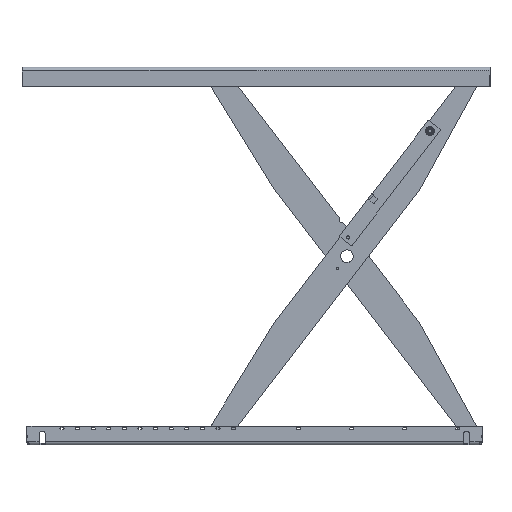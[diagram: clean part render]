
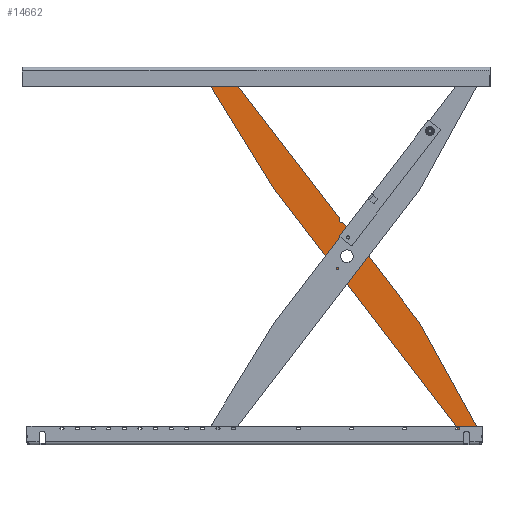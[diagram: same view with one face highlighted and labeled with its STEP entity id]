
A CAD part, front view. The second image highlights one B-rep face of the part: STEP entity #14662.
In plain terms, the highlighted planar face has unit normal (0, -1, 0) as drawn and (0, 0, -1) by its records, which use the part's own axes.
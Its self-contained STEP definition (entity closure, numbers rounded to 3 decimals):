
#507=FACE_BOUND('',#2301,.T.);
#508=FACE_BOUND('',#2302,.T.);
#509=FACE_BOUND('',#2303,.T.);
#746=PLANE('',#16081);
#1383=FACE_OUTER_BOUND('',#2300,.T.);
#2300=EDGE_LOOP('',(#11995,#11996,#11997,#11998,#11999,#12000,#12001,#12002,
#12003,#12004,#12005,#12006,#12007,#12008));
#2301=EDGE_LOOP('',(#12009,#12010,#12011,#12012));
#2302=EDGE_LOOP('',(#12013,#12014,#12015,#12016));
#2303=EDGE_LOOP('',(#12017,#12018,#12019,#12020));
#3470=LINE('',#24158,#4797);
#3471=LINE('',#24162,#4798);
#3472=LINE('',#24166,#4799);
#3473=LINE('',#24170,#4800);
#3474=LINE('',#24174,#4801);
#3475=LINE('',#24177,#4802);
#4797=VECTOR('',#19192,10.);
#4798=VECTOR('',#19195,10.);
#4799=VECTOR('',#19198,10.);
#4800=VECTOR('',#19201,10.);
#4801=VECTOR('',#19204,10.);
#4802=VECTOR('',#19207,10.);
#5847=CIRCLE('',#16079,1.);
#5849=CIRCLE('',#16082,2.);
#5850=CIRCLE('',#16083,7.);
#5851=CIRCLE('',#16084,2.);
#5852=CIRCLE('',#16085,26.);
#5853=CIRCLE('',#16086,20.);
#5854=CIRCLE('',#16087,1.);
#5855=CIRCLE('',#16088,26.);
#5856=CIRCLE('',#16089,1.);
#5857=CIRCLE('',#16090,2.);
#5858=CIRCLE('',#16091,1.);
#5859=CIRCLE('',#16092,11.1);
#5860=CIRCLE('',#16093,1.);
#5861=CIRCLE('',#16094,14.1);
#5862=CIRCLE('',#16095,1.);
#5863=CIRCLE('',#16096,2.);
#5864=CIRCLE('',#16097,1.);
#5865=CIRCLE('',#16098,30.);
#5866=CIRCLE('',#16099,1.);
#5867=CIRCLE('',#16100,2.);
#6910=VERTEX_POINT('',#24141);
#6911=VERTEX_POINT('',#24142);
#6914=VERTEX_POINT('',#24150);
#6915=VERTEX_POINT('',#24151);
#6916=VERTEX_POINT('',#24153);
#6917=VERTEX_POINT('',#24155);
#6918=VERTEX_POINT('',#24157);
#6919=VERTEX_POINT('',#24159);
#6920=VERTEX_POINT('',#24161);
#6921=VERTEX_POINT('',#24163);
#6922=VERTEX_POINT('',#24165);
#6923=VERTEX_POINT('',#24167);
#6924=VERTEX_POINT('',#24169);
#6925=VERTEX_POINT('',#24171);
#6926=VERTEX_POINT('',#24173);
#6927=VERTEX_POINT('',#24175);
#6928=VERTEX_POINT('',#24178);
#6929=VERTEX_POINT('',#24180);
#6930=VERTEX_POINT('',#24183);
#6931=VERTEX_POINT('',#24184);
#6932=VERTEX_POINT('',#24186);
#6933=VERTEX_POINT('',#24188);
#6934=VERTEX_POINT('',#24191);
#6935=VERTEX_POINT('',#24192);
#6936=VERTEX_POINT('',#24194);
#6937=VERTEX_POINT('',#24196);
#8710=EDGE_CURVE('',#6910,#6911,#5847,.T.);
#8714=EDGE_CURVE('',#6914,#6915,#5849,.T.);
#8715=EDGE_CURVE('',#6916,#6914,#5850,.T.);
#8716=EDGE_CURVE('',#6917,#6916,#5851,.T.);
#8717=EDGE_CURVE('',#6918,#6917,#3470,.T.);
#8718=EDGE_CURVE('',#6919,#6918,#5852,.T.);
#8719=EDGE_CURVE('',#6920,#6919,#3471,.T.);
#8720=EDGE_CURVE('',#6921,#6920,#5853,.T.);
#8721=EDGE_CURVE('',#6922,#6921,#3472,.T.);
#8722=EDGE_CURVE('',#6923,#6922,#5854,.T.);
#8723=EDGE_CURVE('',#6924,#6923,#3473,.T.);
#8724=EDGE_CURVE('',#6925,#6924,#5855,.T.);
#8725=EDGE_CURVE('',#6926,#6925,#3474,.T.);
#8726=EDGE_CURVE('',#6927,#6926,#5856,.T.);
#8727=EDGE_CURVE('',#6915,#6927,#3475,.T.);
#8728=EDGE_CURVE('',#6910,#6928,#5857,.T.);
#8729=EDGE_CURVE('',#6929,#6928,#5858,.T.);
#8730=EDGE_CURVE('',#6911,#6929,#5859,.T.);
#8731=EDGE_CURVE('',#6930,#6931,#5860,.T.);
#8732=EDGE_CURVE('',#6930,#6932,#5861,.T.);
#8733=EDGE_CURVE('',#6933,#6932,#5862,.T.);
#8734=EDGE_CURVE('',#6933,#6931,#5863,.T.);
#8735=EDGE_CURVE('',#6934,#6935,#5864,.T.);
#8736=EDGE_CURVE('',#6934,#6936,#5865,.T.);
#8737=EDGE_CURVE('',#6937,#6936,#5866,.T.);
#8738=EDGE_CURVE('',#6937,#6935,#5867,.T.);
#11995=ORIENTED_EDGE('',*,*,#8714,.F.);
#11996=ORIENTED_EDGE('',*,*,#8715,.F.);
#11997=ORIENTED_EDGE('',*,*,#8716,.F.);
#11998=ORIENTED_EDGE('',*,*,#8717,.F.);
#11999=ORIENTED_EDGE('',*,*,#8718,.F.);
#12000=ORIENTED_EDGE('',*,*,#8719,.F.);
#12001=ORIENTED_EDGE('',*,*,#8720,.F.);
#12002=ORIENTED_EDGE('',*,*,#8721,.F.);
#12003=ORIENTED_EDGE('',*,*,#8722,.F.);
#12004=ORIENTED_EDGE('',*,*,#8723,.F.);
#12005=ORIENTED_EDGE('',*,*,#8724,.F.);
#12006=ORIENTED_EDGE('',*,*,#8725,.F.);
#12007=ORIENTED_EDGE('',*,*,#8726,.F.);
#12008=ORIENTED_EDGE('',*,*,#8727,.F.);
#12009=ORIENTED_EDGE('',*,*,#8710,.F.);
#12010=ORIENTED_EDGE('',*,*,#8728,.T.);
#12011=ORIENTED_EDGE('',*,*,#8729,.F.);
#12012=ORIENTED_EDGE('',*,*,#8730,.F.);
#12013=ORIENTED_EDGE('',*,*,#8731,.F.);
#12014=ORIENTED_EDGE('',*,*,#8732,.T.);
#12015=ORIENTED_EDGE('',*,*,#8733,.F.);
#12016=ORIENTED_EDGE('',*,*,#8734,.T.);
#12017=ORIENTED_EDGE('',*,*,#8735,.F.);
#12018=ORIENTED_EDGE('',*,*,#8736,.T.);
#12019=ORIENTED_EDGE('',*,*,#8737,.F.);
#12020=ORIENTED_EDGE('',*,*,#8738,.T.);
#14662=ADVANCED_FACE('',(#1383,#507,#508,#509),#746,.F.);
#16079=AXIS2_PLACEMENT_3D('',#24143,#19178,#19179);
#16081=AXIS2_PLACEMENT_3D('',#24149,#19184,#19185);
#16082=AXIS2_PLACEMENT_3D('',#24152,#19186,#19187);
#16083=AXIS2_PLACEMENT_3D('',#24154,#19188,#19189);
#16084=AXIS2_PLACEMENT_3D('',#24156,#19190,#19191);
#16085=AXIS2_PLACEMENT_3D('',#24160,#19193,#19194);
#16086=AXIS2_PLACEMENT_3D('',#24164,#19196,#19197);
#16087=AXIS2_PLACEMENT_3D('',#24168,#19199,#19200);
#16088=AXIS2_PLACEMENT_3D('',#24172,#19202,#19203);
#16089=AXIS2_PLACEMENT_3D('',#24176,#19205,#19206);
#16090=AXIS2_PLACEMENT_3D('',#24179,#19208,#19209);
#16091=AXIS2_PLACEMENT_3D('',#24181,#19210,#19211);
#16092=AXIS2_PLACEMENT_3D('',#24182,#19212,#19213);
#16093=AXIS2_PLACEMENT_3D('',#24185,#19214,#19215);
#16094=AXIS2_PLACEMENT_3D('',#24187,#19216,#19217);
#16095=AXIS2_PLACEMENT_3D('',#24189,#19218,#19219);
#16096=AXIS2_PLACEMENT_3D('',#24190,#19220,#19221);
#16097=AXIS2_PLACEMENT_3D('',#24193,#19222,#19223);
#16098=AXIS2_PLACEMENT_3D('',#24195,#19224,#19225);
#16099=AXIS2_PLACEMENT_3D('',#24197,#19226,#19227);
#16100=AXIS2_PLACEMENT_3D('',#24198,#19228,#19229);
#19178=DIRECTION('center_axis',(0.,0.,1.));
#19179=DIRECTION('ref_axis',(0.696,-0.718,0.));
#19184=DIRECTION('center_axis',(0.,0.,1.));
#19185=DIRECTION('ref_axis',(1.,0.,0.));
#19186=DIRECTION('center_axis',(0.,0.,1.));
#19187=DIRECTION('ref_axis',(0.568,0.823,0.));
#19188=DIRECTION('center_axis',(0.,0.,-1.));
#19189=DIRECTION('ref_axis',(0.985,0.171,0.));
#19190=DIRECTION('center_axis',(0.,0.,1.));
#19191=DIRECTION('ref_axis',(-0.568,0.823,0.));
#19192=DIRECTION('',(-1.,0.,0.));
#19193=DIRECTION('center_axis',(0.,0.,1.));
#19194=DIRECTION('ref_axis',(1.,0.,0.));
#19195=DIRECTION('',(0.509,0.86,0.));
#19196=DIRECTION('center_axis',(0.,0.,1.));
#19197=DIRECTION('ref_axis',(-0.107,0.994,0.));
#19198=DIRECTION('',(0.995,0.105,0.));
#19199=DIRECTION('center_axis',(0.,0.,1.));
#19200=DIRECTION('ref_axis',(0.052,-0.999,0.));
#19201=DIRECTION('',(1.,0.,0.));
#19202=DIRECTION('center_axis',(0.,0.,1.));
#19203=DIRECTION('ref_axis',(1.,0.,0.));
#19204=DIRECTION('',(-0.989,-0.15,0.));
#19205=DIRECTION('center_axis',(0.,0.,1.));
#19206=DIRECTION('ref_axis',(-0.075,0.997,0.));
#19207=DIRECTION('',(-1.,0.,0.));
#19208=DIRECTION('center_axis',(0.,0.,1.));
#19209=DIRECTION('ref_axis',(1.,0.,0.));
#19210=DIRECTION('center_axis',(0.,0.,1.));
#19211=DIRECTION('ref_axis',(0.696,0.718,0.));
#19212=DIRECTION('center_axis',(0.,0.,-1.));
#19213=DIRECTION('ref_axis',(-1.,0.,0.));
#19214=DIRECTION('center_axis',(0.,0.,1.));
#19215=DIRECTION('ref_axis',(-0.724,-0.69,0.));
#19216=DIRECTION('center_axis',(0.,0.,1.));
#19217=DIRECTION('ref_axis',(-1.,0.,0.));
#19218=DIRECTION('center_axis',(0.,0.,1.));
#19219=DIRECTION('ref_axis',(-0.724,0.69,0.));
#19220=DIRECTION('center_axis',(0.,0.,1.));
#19221=DIRECTION('ref_axis',(1.,0.,0.));
#19222=DIRECTION('center_axis',(0.,0.,1.));
#19223=DIRECTION('ref_axis',(-0.774,-0.633,0.));
#19224=DIRECTION('center_axis',(0.,0.,1.));
#19225=DIRECTION('ref_axis',(-1.,0.,0.));
#19226=DIRECTION('center_axis',(0.,0.,1.));
#19227=DIRECTION('ref_axis',(-0.774,0.633,0.));
#19228=DIRECTION('center_axis',(0.,0.,1.));
#19229=DIRECTION('ref_axis',(1.,0.,0.));
#24141=CARTESIAN_POINT('',(680.974,30.954,0.));
#24142=CARTESIAN_POINT('',(681.731,31.689,0.));
#24143=CARTESIAN_POINT('Origin',(680.76,31.931,0.));
#24149=CARTESIAN_POINT('Origin',(-692.689,-29.014,0.));
#24150=CARTESIAN_POINT('',(94.157,53.711,0.));
#24151=CARTESIAN_POINT('',(92.288,55.,0.));
#24152=CARTESIAN_POINT('Origin',(92.288,53.,0.));
#24153=CARTESIAN_POINT('',(107.243,53.711,0.));
#24154=CARTESIAN_POINT('Origin',(100.7,56.2,0.));
#24155=CARTESIAN_POINT('',(109.112,55.,0.));
#24156=CARTESIAN_POINT('Origin',(109.112,53.,0.));
#24157=CARTESIAN_POINT('',(692.5,55.,0.));
#24158=CARTESIAN_POINT('',(692.5,55.,0.));
#24159=CARTESIAN_POINT('',(714.873,15.754,0.));
#24160=CARTESIAN_POINT('Origin',(692.5,29.,0.));
#24161=CARTESIAN_POINT('',(701.94,-6.09,0.));
#24162=CARTESIAN_POINT('',(701.94,-6.09,0.));
#24163=CARTESIAN_POINT('',(686.821,-15.79,0.));
#24164=CARTESIAN_POINT('Origin',(684.73,4.1,0.));
#24165=CARTESIAN_POINT('',(313.952,-54.995,0.));
#24166=CARTESIAN_POINT('',(313.9,-55.,0.));
#24167=CARTESIAN_POINT('',(313.848,-55.,0.));
#24168=CARTESIAN_POINT('Origin',(313.848,-54.,0.));
#24169=CARTESIAN_POINT('',(-692.5,-55.,0.));
#24170=CARTESIAN_POINT('',(-692.5,-55.,0.));
#24171=CARTESIAN_POINT('',(-696.403,-3.295,0.));
#24172=CARTESIAN_POINT('Origin',(-692.5,-29.,0.));
#24173=CARTESIAN_POINT('',(-312.575,54.989,0.));
#24174=CARTESIAN_POINT('',(-312.5,55.,0.));
#24175=CARTESIAN_POINT('',(-312.425,55.,0.));
#24176=CARTESIAN_POINT('Origin',(-312.425,54.,0.));
#24177=CARTESIAN_POINT('',(93.804,55.,0.));
#24178=CARTESIAN_POINT('',(680.974,27.046,0.));
#24179=CARTESIAN_POINT('Origin',(681.4,29.,0.));
#24180=CARTESIAN_POINT('',(681.731,26.311,0.));
#24181=CARTESIAN_POINT('Origin',(680.76,26.069,0.));
#24182=CARTESIAN_POINT('Origin',(692.5,29.,0.));
#24183=CARTESIAN_POINT('',(-678.665,-26.28,0.));
#24184=CARTESIAN_POINT('',(-677.922,-27.058,0.));
#24185=CARTESIAN_POINT('Origin',(-677.684,-26.087,0.));
#24186=CARTESIAN_POINT('',(-678.665,-31.72,0.));
#24187=CARTESIAN_POINT('Origin',(-692.5,-29.,0.));
#24188=CARTESIAN_POINT('',(-677.922,-30.942,0.));
#24189=CARTESIAN_POINT('Origin',(-677.684,-31.913,0.));
#24190=CARTESIAN_POINT('Origin',(-678.4,-29.,0.));
#24191=CARTESIAN_POINT('',(29.871,2.779,0.));
#24192=CARTESIAN_POINT('',(30.578,1.915,0.));
#24193=CARTESIAN_POINT('Origin',(30.867,2.872,0.));
#24194=CARTESIAN_POINT('',(29.871,-2.779,0.));
#24195=CARTESIAN_POINT('Origin',(0.,0.,0.));
#24196=CARTESIAN_POINT('',(30.578,-1.915,0.));
#24197=CARTESIAN_POINT('Origin',(30.867,-2.872,0.));
#24198=CARTESIAN_POINT('Origin',(30.,0.,0.));
